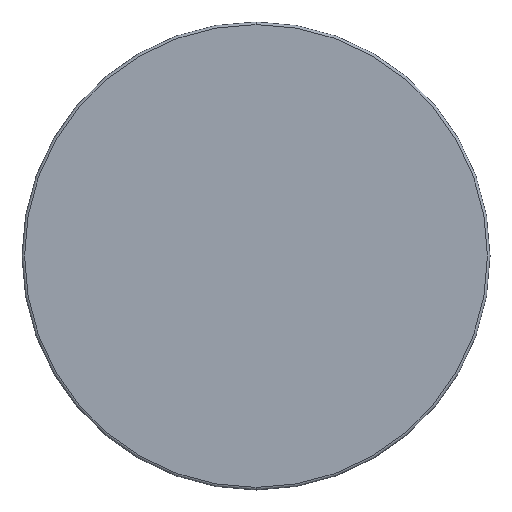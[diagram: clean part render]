
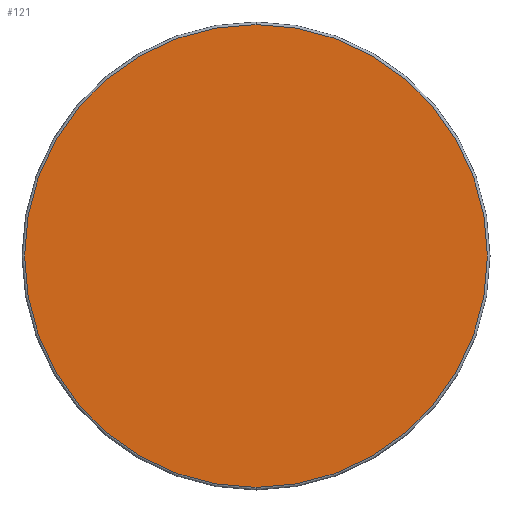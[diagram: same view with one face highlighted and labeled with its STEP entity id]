
A CAD part, front view. The second image highlights one B-rep face of the part: STEP entity #121.
In plain terms, the highlighted planar face has unit normal (0, -1, 0).
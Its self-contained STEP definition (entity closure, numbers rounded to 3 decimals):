
#36 = DIRECTION ( 'NONE',  ( 0., 0., 1. ) ) ;
#66 = CIRCLE ( 'NONE', #360, 17.95 ) ;
#67 = DIRECTION ( 'NONE',  ( 0., -1., 0. ) ) ;
#74 = AXIS2_PLACEMENT_3D ( 'NONE', #262, #233, #88 ) ;
#88 = DIRECTION ( 'NONE',  ( 0., 0., 1. ) ) ;
#121 = ADVANCED_FACE ( 'NONE', ( #156 ), #160, .F. ) ;
#127 = CARTESIAN_POINT ( 'NONE',  ( 0., 0., 0. ) ) ;
#156 = FACE_OUTER_BOUND ( 'NONE', #412, .T. ) ;
#160 = PLANE ( 'NONE',  #286 ) ;
#227 = DIRECTION ( 'NONE',  ( 0., 0., 1. ) ) ;
#233 = DIRECTION ( 'NONE',  ( 0., -1., 0. ) ) ;
#252 = EDGE_CURVE ( 'NONE', #390, #374, #255, .T. ) ;
#255 = CIRCLE ( 'NONE', #74, 17.95 ) ;
#259 = ORIENTED_EDGE ( 'NONE', *, *, #322, .T. ) ;
#262 = CARTESIAN_POINT ( 'NONE',  ( 0., 0., 0. ) ) ;
#266 = CARTESIAN_POINT ( 'NONE',  ( 0., 0., -17.95 ) ) ;
#267 = ORIENTED_EDGE ( 'NONE', *, *, #252, .T. ) ;
#286 = AXIS2_PLACEMENT_3D ( 'NONE', #127, #357, #227 ) ;
#295 = CARTESIAN_POINT ( 'NONE',  ( 0., 0., 0. ) ) ;
#322 = EDGE_CURVE ( 'NONE', #374, #390, #66, .T. ) ;
#330 = CARTESIAN_POINT ( 'NONE',  ( 0., 0., 17.95 ) ) ;
#357 = DIRECTION ( 'NONE',  ( 0., 1., 0. ) ) ;
#360 = AXIS2_PLACEMENT_3D ( 'NONE', #295, #67, #36 ) ;
#374 = VERTEX_POINT ( 'NONE', #266 ) ;
#390 = VERTEX_POINT ( 'NONE', #330 ) ;
#412 = EDGE_LOOP ( 'NONE', ( #267, #259 ) ) ;
